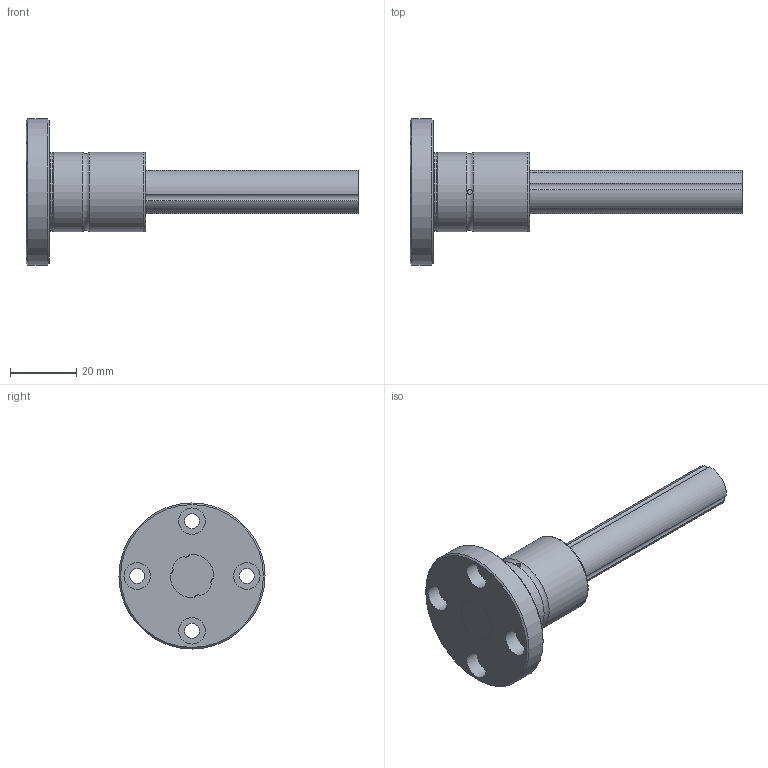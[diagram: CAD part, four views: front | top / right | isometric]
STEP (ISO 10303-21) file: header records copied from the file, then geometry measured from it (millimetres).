
FILE_DESCRIPTION(/* description */ ('STEP AP214'),/* implementation_level */ '2;1');
FILE_NAME(/* name */ 'LF131100(00)',/* time_stamp */ '2024-09-05T14:34:01+02:00',/* author */ ('License CC BY-ND 4.0'),/* organization */ ('CADENAS'),/* preprocessor_version */ 'ST-DEVELOPER v19.3',/* originating_system */ 'PARTsolutions',/* authorisation */ ' ');
FILE_SCHEMA (('AUTOMOTIVE_DESIGN {1 0 10303 214 3 1 1}'));
Length unit declared in the file: millimetre
Products named in the file (3): LF131100(00); LF 13100 FTLFShaft; LF 13 FTLF Cylindar
Assembly tree (2 placements, depth 2):
  LF131100(00)
    LF 13100 FTLFShaft
    LF 13 FTLF Cylindar
Bounding box: 100 x 44 x 44 mm (x, y, z)
Volume: 30885.2 mm3; surface area: 12310.1 mm2
Topology: 2 solids, 2 shells, 45 faces, 113 edges, 74 vertices
Faces by surface type: cylinder 30, plane 9, torus 4, cone 2
Full cylindrical faces by diameter (mm): 1.5 x2, 4.5 x4, 8 x4, 23.6 x1, 24 x2, 44 x1
Entity records: 1329 total; most frequent: CARTESIAN_POINT 238, DIRECTION 234, ORIENTED_EDGE 168, AXIS2_PLACEMENT_3D 108, EDGE_CURVE 84, EDGE_LOOP 82, FACE_BOUND 82, VERTEX_POINT 66
